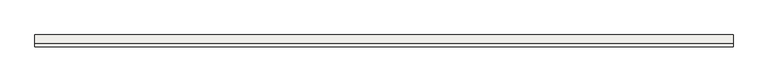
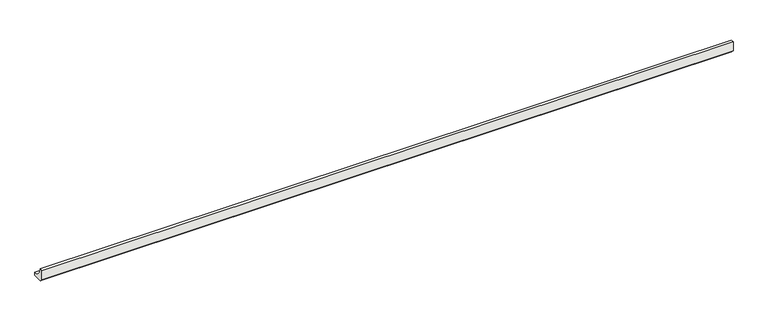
"""IFC4 building model written with IfcOpenShell, lengths in millimetres: slab geometry, ROSA GRES_188 : Pieza 188_Tresor_Bali_Anti-Slip."""

from ifc_helpers import new_model, si_unit, point, frame, frame_2d, origin, place, context, project, spatial, polyline, circle_curve, trimmed, segment, composite_curve, outline, extrude, source, transform, mapped, element, save


def slab_87185b7d(model_context):
    return source(origin(), model_context, "Body", "SweptSolid", [
        extrude(outline(composite_curve([segment(polyline([(0.0, 8.7114978), (0.0, 40.0), (9.9734114, 40.0)]), True, "CONTINUOUS"), segment(trimmed(circle_curve(frame_2d((39.9955547, 39.9955547)), 30.0221435), [point((9.9734114, 40.0))], [point((40.0, 9.9734114))], True, "CARTESIAN"), True, "CONTINUOUS"), segment(polyline([(40.0, 9.9734114), (40.0, 0.0), (8.7114978, 0.0), (0.0, 8.7114978)]), True, "CONTINUOUS")], self_intersect=False)), frame((0.0, 0.0, 0.0), z_axis=(1.0, 0.0, 0.0), x_axis=(0.0, 1.0, 0.0)), (0.0, 0.0, 1.0), 2311.3369586),
    ])


if __name__ == "__main__":
    model = new_model("IFC4")
    model_context = context("Model", 3, world=origin())
    ifc_project = project(units=[si_unit("LENGTHUNIT", "METRE", prefix="MILLI")], contexts=[model_context])
    site = spatial("IfcSite", under=ifc_project)
    building = spatial("IfcBuilding", under=site)
    placement = place(None, origin())
    slab_shape = slab_87185b7d(model_context)
    element("IfcSlab", 1, ObjectType="ROSA GRES_188 : Pieza 188_Tresor_Bali_Anti-Slip", at=placement, inside=building, context=model_context, shape_type="MappedRepresentation", body=[
        mapped(slab_shape, transform((0.0, 0.0, 0.0), x_axis=(1.0, 0.0, 0.0), y_axis=(0.0, 1.0, 0.0), z_axis=(0.0, 0.0, 1.0))),
    ])
    save(model, "model.ifc")
